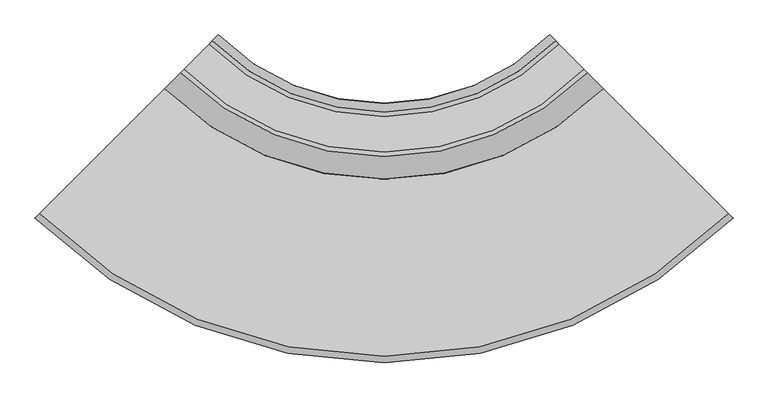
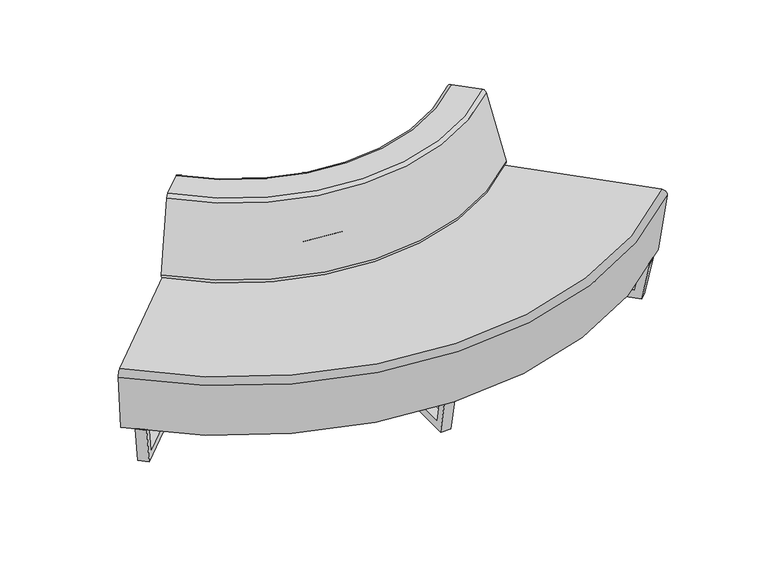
"""IFC4 building model written with IfcOpenShell, lengths in millimetres: furniture geometry, Furniture-Sofa-LyndonDesign-Us_US_12 : Furniture-Sofa-LyndonDesign-Us_US_12."""

from ifc_helpers import new_model, si_unit, point, frame, origin, place, context, project, spatial, polyline, circle_curve, ellipse_curve, trimmed, outline, extrude, source, transform, mapped, element, save
from ifc_brep_helpers import plane_surface, revolved_surface, advanced_brep


def furniture_19859e92(model_context):
    return source(origin(), model_context, "Body", "SolidModel", [
        extrude(outline(polyline([(-76.0017475, 0.0), (-676.0052017, 0.0), (-704.8608218, 150.0008635), (-47.1461273, 150.0008635), (-76.0017475, 0.0)]), holes=[polyline([(-649.5600625, 31.992539), (-102.4330699, 31.992539), (-84.7615271, 124.0047668), (-667.245422, 124.0047668), (-649.5600625, 31.992539)])]), frame((-20.0, 0.0, 0.0), z_axis=(1.0, 0.0, 0.0), x_axis=(0.0, 1.0, 0.0)), (0.0, 0.0, 1.0), 40.0),
        extrude(outline(polyline([(789.9948218, 0.0), (818.850442, -150.0008635), (161.1357474, -150.0008635), (189.9913676, 0.0), (789.9948218, 0.0)]), holes=[polyline([(216.4365067, -31.992539), (198.7511472, -124.0047668), (781.2350421, -124.0047668), (763.5634993, -31.992539), (216.4365067, -31.992539)])]), frame((-1094.035217, -471.0704004, 0.0), z_axis=(-0.7071067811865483, 0.7071067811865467, 0.0), x_axis=(0.7071067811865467, 0.7071067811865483, 0.0)), (0.0, 0.0, 1.0), 40.0),
        extrude(outline(polyline([(144.0066093, 0.0), (257.350926, -589.2004845), (115.5018078, -645.8726428), (-8.7445146, 0.0), (144.0066093, 0.0)]), holes=[polyline([(220.9387595, -569.275072), (117.5831293, -31.9990166), (23.8893051, -32.0273189), (133.9240701, -604.0236811), (220.9387595, -569.275072)])]), frame((516.1885809, 106.7762357, 141.4137925), z_axis=(0.7071067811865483, 0.7071067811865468, 0.0), x_axis=(0.13357678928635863, -0.1335767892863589, -0.9819951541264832)), (0.0, 0.0, 1.0), 40.0),
        advanced_brep(
        [(518.8068085, 231.4409775, 400.0), (507.3356471, 242.9084352, 416.4948981), (525.7083371, 224.541677, 685.8398745), (535.9954958, 214.2578397, 699.1667853), (612.7629541, 137.5151667, 698.9837746), (622.5237022, 127.75757, 688.2685098), (671.7426141, 78.554549, 418.8659125), (660.423191, 89.8703175, 400.0), (-518.8068085, 231.4409775, 400.0), (-660.423191, 89.8703175, 400.0), (-671.7426141, 78.554549, 418.8659125), (-622.5237022, 127.75757, 688.2685098), (-612.7629541, 137.5151667, 698.9837746), (-535.9954958, 214.2578397, 699.1667853), (-525.7083371, 224.541677, 685.8398745), (-507.3356471, 242.9084352, 416.4948981)],
        [
            (0, 1, circle_curve(frame((518.8068085, 231.4409775, 416.2223431), z_axis=(0.7069926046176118, 0.7072209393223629, 0.0), x_axis=(-0.7072209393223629, 0.7069926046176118, 0.0)), 16.2223431)),
            (1, 2, circle_curve(frame((1714.2636331, -963.6298797, 387.8182679), z_axis=(0.7069926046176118, 0.7072209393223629, 0.0), x_axis=(-0.7072209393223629, 0.7069926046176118, 0.0)), 1706.8193278)),
            (2, 3, circle_curve(frame((537.0048765, 213.2487848, 683.0073493), z_axis=(0.7069926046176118, 0.7072209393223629, 0.0), x_axis=(-0.7072209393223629, 0.7069926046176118, 0.0)), 16.2223431)),
            (3, 4, circle_curve(frame((573.6603534, 176.6051427, 96.1803965), z_axis=(0.7069926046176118, 0.7072209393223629, 0.0), x_axis=(-0.7072209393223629, 0.7069926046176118, 0.0)), 605.3337527)),
            (4, 5, circle_curve(frame((611.7150432, 138.5627392, 682.829243), z_axis=(0.7069926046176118, 0.7072209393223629, 0.0), x_axis=(-0.7072209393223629, 0.7069926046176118, 0.0)), 16.2223431)),
            (5, 6, circle_curve(frame((-419.0342443, 1168.9792371, 164.1228604), z_axis=(0.7069926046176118, 0.7072209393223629, 0.0), x_axis=(-0.7072209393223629, 0.7069926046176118, 0.0)), 1563.2383624)),
            (6, 7, circle_curve(frame((660.423191, 89.8703175, 416.2223431), z_axis=(0.7069926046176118, 0.7072209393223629, 0.0), x_axis=(-0.7072209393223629, 0.7069926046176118, 0.0)), 16.2223431)),
            (7, 0),
            (8, 9),
            (9, 10, circle_curve(frame((-660.423191, 89.8703175, 416.2223431), z_axis=(-0.7069926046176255, 0.7072209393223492, 0.0), x_axis=(0.7072209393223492, 0.7069926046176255, 0.0)), 16.2223431)),
            (10, 11, circle_curve(frame((419.0342443, 1168.9792371, 164.1228604), z_axis=(-0.7069926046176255, 0.7072209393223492, 0.0), x_axis=(0.7072209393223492, 0.7069926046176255, 0.0)), 1563.2383624)),
            (11, 12, circle_curve(frame((-611.7150432, 138.5627392, 682.829243), z_axis=(-0.7069926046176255, 0.7072209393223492, 0.0), x_axis=(0.7072209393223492, 0.7069926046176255, 0.0)), 16.2223431)),
            (12, 13, circle_curve(frame((-573.6603534, 176.6051427, 96.1803965), z_axis=(-0.7069926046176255, 0.7072209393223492, 0.0), x_axis=(0.7072209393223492, 0.7069926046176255, 0.0)), 605.3337527)),
            (13, 14, circle_curve(frame((-537.0048765, 213.2487848, 683.0073493), z_axis=(-0.7069926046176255, 0.7072209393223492, 0.0), x_axis=(0.7072209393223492, 0.7069926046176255, 0.0)), 16.2223431)),
            (14, 15, circle_curve(frame((-1714.2636331, -963.6298797, 387.8182679), z_axis=(-0.7069926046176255, 0.7072209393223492, 0.0), x_axis=(0.7072209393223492, 0.7069926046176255, 0.0)), 1706.8193278)),
            (15, 8, circle_curve(frame((-518.8068085, 231.4409775, 416.2223431), z_axis=(-0.7069926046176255, 0.7072209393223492, 0.0), x_axis=(0.7072209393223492, 0.7069926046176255, 0.0)), 16.2223431)),
            (15, 1, circle_curve(frame((0.0, 750.080283, 416.4948981), z_axis=(0.0, 0.0, 1.0), x_axis=(0.7072209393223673, -0.7069926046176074, 0.0)), 717.3651386)),
            (0, 8, circle_curve(frame((0.0, 750.080283, 400.0), z_axis=(0.0, 0.0, -1.0), x_axis=(0.7072209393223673, -0.7069926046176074, 0.0)), 733.5851919)),
            (14, 2, circle_curve(frame((0.0, 750.080283, 685.8398745), z_axis=(0.0, 0.0, 1.0), x_axis=(0.7072209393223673, -0.7069926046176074, 0.0)), 743.3438519)),
            (13, 3, circle_curve(frame((0.0, 750.080283, 699.1667853), z_axis=(0.0, 0.0, 1.0), x_axis=(0.7072209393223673, -0.7069926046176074, 0.0)), 757.8897428)),
            (12, 4, circle_curve(frame((0.0, 750.080283, 698.9837746), z_axis=(0.0, 0.0, 1.0), x_axis=(0.7072209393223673, -0.7069926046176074, 0.0)), 866.437799)),
            (11, 5, circle_curve(frame((0.0, 750.080283, 688.2685098), z_axis=(0.0, 0.0, 1.0), x_axis=(0.7072209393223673, -0.7069926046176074, 0.0)), 880.2393532)),
            (10, 6, circle_curve(frame((0.0, 750.080283, 418.8659125), z_axis=(0.0, 0.0, 1.0), x_axis=(0.7072209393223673, -0.7069926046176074, 0.0)), 949.8341702)),
            (9, 7, circle_curve(frame((0.0, 750.080283, 400.0), z_axis=(0.0, 0.0, 1.0), x_axis=(0.7072209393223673, -0.7069926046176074, 0.0)), 933.8286726)),
        ],
        [
            plane_surface(frame((507.1960089, 243.0480283, 400.0), z_axis=(0.7069926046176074, 0.7072209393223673, 0.0), x_axis=(0.0, 0.0, 1.0))),
            plane_surface(frame((-507.1960089, 243.0480283, 400.0), z_axis=(-0.70699260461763, 0.7072209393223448, 0.0), x_axis=(0.0, 0.0, 1.0))),
            revolved_surface(trimmed(ellipse_curve(frame((518.8068085, 231.4409775, 416.2223431), z_axis=(0.7069926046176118, 0.7072209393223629, 0.0), x_axis=(-0.7072209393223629, 0.7069926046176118, 0.0)), 16.2223431, 16.2223431), [point((518.8068085, 231.4409775, 400.0))], [point((507.3356471, 242.9084352, 416.4948981))], True, "CARTESIAN"), (0.0, 750.080283, 400.0), (0.0, 0.0, -1.0)),
            revolved_surface(trimmed(ellipse_curve(frame((1714.2636331, -963.6298797, 387.8182679), z_axis=(0.7069926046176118, 0.7072209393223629, 0.0), x_axis=(-0.7072209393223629, 0.7069926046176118, 0.0)), 1706.8193278, 1706.8193278), [point((507.3356471, 242.9084352, 416.4948981))], [point((525.7083371, 224.541677, 685.8398745))], True, "CARTESIAN"), (0.0, 750.080283, 400.0), (0.0, 0.0, -1.0)),
            revolved_surface(trimmed(ellipse_curve(frame((537.0048765, 213.2487848, 683.0073493), z_axis=(0.7069926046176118, 0.7072209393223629, 0.0), x_axis=(-0.7072209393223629, 0.7069926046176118, 0.0)), 16.2223431, 16.2223431), [point((525.7083371, 224.541677, 685.8398745))], [point((535.9954958, 214.2578397, 699.1667853))], True, "CARTESIAN"), (0.0, 750.080283, 400.0), (0.0, 0.0, -1.0)),
            revolved_surface(trimmed(ellipse_curve(frame((573.6603534, 176.6051427, 96.1803965), z_axis=(0.7069926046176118, 0.7072209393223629, 0.0), x_axis=(-0.7072209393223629, 0.7069926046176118, 0.0)), 605.3337527, 605.3337527), [point((535.9954958, 214.2578397, 699.1667853))], [point((612.7629541, 137.5151667, 698.9837746))], True, "CARTESIAN"), (0.0, 750.080283, 400.0), (0.0, 0.0, -1.0)),
            revolved_surface(trimmed(ellipse_curve(frame((611.7150432, 138.5627392, 682.829243), z_axis=(0.7069926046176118, 0.7072209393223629, 0.0), x_axis=(-0.7072209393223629, 0.7069926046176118, 0.0)), 16.2223431, 16.2223431), [point((612.7629541, 137.5151667, 698.9837746))], [point((622.5237022, 127.75757, 688.2685098))], True, "CARTESIAN"), (0.0, 750.080283, 400.0), (0.0, 0.0, -1.0)),
            revolved_surface(trimmed(ellipse_curve(frame((-419.0342443, 1168.9792371, 164.1228604), z_axis=(0.7069926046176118, 0.7072209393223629, 0.0), x_axis=(-0.7072209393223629, 0.7069926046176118, 0.0)), 1563.2383624, 1563.2383624), [point((622.5237022, 127.75757, 688.2685098))], [point((671.7426141, 78.554549, 418.8659125))], True, "CARTESIAN"), (0.0, 750.080283, 400.0), (0.0, 0.0, -1.0)),
            revolved_surface(trimmed(ellipse_curve(frame((660.423191, 89.8703175, 416.2223431), z_axis=(0.7069926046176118, 0.7072209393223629, 0.0), x_axis=(-0.7072209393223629, 0.7069926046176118, 0.0)), 16.2223431, 16.2223431), [point((671.7426141, 78.554549, 418.8659125))], [point((660.423191, 89.8703175, 400.0))], True, "CARTESIAN"), (0.0, 750.080283, 400.0), (0.0, 0.0, -1.0)),
            plane_surface(frame((0.0, 750.080283, 400.0), z_axis=(0.0, 0.0, -1.0), x_axis=(0.7072209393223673, -0.7069926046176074, 0.0))),
        ],
        [
            (0, [[1, 2, 3, 4, 5, 6, 7, 8]]),
            (1, [[9, 10, 11, 12, 13, 14, 15, 16]]),
            (2, [[17, -1, 18, -16]]),
            (3, [[19, -2, -17, -15]]),
            (4, [[20, -3, -19, -14]]),
            (5, [[21, -4, -20, -13]]),
            (6, [[22, -5, -21, -12]]),
            (7, [[23, -6, -22, -11]]),
            (8, [[24, -7, -23, -10]]),
            (9, [[-18, -8, -24, -9]]),
        ],
    ),
        advanced_brep(
        [(-1055.6943889, -305.4503517, 400.0), (-521.3381445, 228.9058927, 400.0), (-507.2746732, 242.969364, 377.8934504), (-530.5026463, 219.741391, 150.0008635), (-1046.5180362, -296.2739989, 150.0008635), (-1069.758874, -319.5148367, 377.9070309), (1055.6943889, -305.4503517, 400.0), (1069.758874, -319.5148367, 377.9070309), (1046.5180362, -296.2739989, 150.0008635), (530.5026463, 219.741391, 150.0008635), (507.2746732, 242.969364, 377.8934504), (521.3381445, 228.9058927, 400.0)],
        [
            (0, 1),
            (1, 2, circle_curve(frame((-521.3381445, 228.9058927, 380.0), z_axis=(-0.7071067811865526, 0.707106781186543, 0.0), x_axis=(0.7071067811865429, 0.7071067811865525, 0.0)), 20.0)),
            (2, 3, circle_curve(frame((-2658.7856996, -1908.5416624, 700.1655651), z_axis=(-0.7071067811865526, 0.707106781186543, 0.0), x_axis=(0.7071067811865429, 0.7071067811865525, 0.0)), 3059.7154621)),
            (3, 4),
            (4, 5, circle_curve(frame((1039.8904621, 1790.1344993, 691.8489037), z_axis=(-0.7071067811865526, 0.707106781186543, 0.0), x_axis=(0.7071067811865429, 0.7071067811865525, 0.0)), 2999.9666901)),
            (5, 0, circle_curve(frame((-1055.6943889, -305.4503517, 380.0), z_axis=(-0.7071067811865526, 0.707106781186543, 0.0), x_axis=(0.7071067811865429, 0.7071067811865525, 0.0)), 20.0)),
            (6, 7, circle_curve(frame((1055.6943889, -305.4503517, 380.0), z_axis=(0.7071067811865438, 0.7071067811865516, 0.0), x_axis=(-0.7071067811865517, 0.7071067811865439, 0.0)), 20.0)),
            (7, 8, circle_curve(frame((-1039.8904621, 1790.1344993, 691.8489037), z_axis=(0.7071067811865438, 0.7071067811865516, 0.0), x_axis=(-0.7071067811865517, 0.7071067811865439, 0.0)), 2999.9666901)),
            (8, 9),
            (9, 10, circle_curve(frame((2658.7856996, -1908.5416624, 700.1655651), z_axis=(0.7071067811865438, 0.7071067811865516, 0.0), x_axis=(-0.7071067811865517, 0.7071067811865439, 0.0)), 3059.7154621)),
            (10, 11, circle_curve(frame((521.3381445, 228.9058927, 380.0), z_axis=(0.7071067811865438, 0.7071067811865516, 0.0), x_axis=(-0.7071067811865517, 0.7071067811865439, 0.0)), 20.0)),
            (11, 6),
            (11, 1, circle_curve(frame((0.0, 750.2440372, 400.0), z_axis=(0.0, 0.0, -1.0), x_axis=(-0.707106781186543, -0.7071067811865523, 0.0)), 737.2834746)),
            (0, 6, circle_curve(frame((0.0, 750.2440372, 400.0), z_axis=(0.0, 0.0, 1.0), x_axis=(-0.707106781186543, -0.7071067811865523, 0.0)), 1492.9773225)),
            (10, 2, circle_curve(frame((0.0, 750.2440372, 377.8934504), z_axis=(0.0, 0.0, -1.0), x_axis=(-0.707106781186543, -0.7071067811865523, 0.0)), 717.3947227)),
            (9, 3, circle_curve(frame((0.0, 750.2440372, 150.0008635), z_axis=(0.0, 0.0, -1.0), x_axis=(-0.707106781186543, -0.7071067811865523, 0.0)), 750.2440372)),
            (8, 4, circle_curve(frame((0.0, 750.2440372, 150.0008635), z_axis=(0.0, 0.0, -1.0), x_axis=(-0.707106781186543, -0.7071067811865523, 0.0)), 1480.0)),
            (7, 5, circle_curve(frame((0.0, 750.2440372, 377.9070309), z_axis=(0.0, 0.0, -1.0), x_axis=(-0.707106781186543, -0.7071067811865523, 0.0)), 1512.867508)),
        ],
        [
            plane_surface(frame((-1046.5180362, -296.2739989, 150.0008635), z_axis=(-0.7071067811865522, 0.7071067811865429, 0.0), x_axis=(0.0, 0.0, 1.0))),
            plane_surface(frame((1046.5180362, -296.2739989, 150.0008635), z_axis=(0.7071067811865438, 0.7071067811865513, 0.0), x_axis=(0.0, 0.0, 1.0))),
            plane_surface(frame((0.0, 750.2440372, 400.0), z_axis=(0.0, 0.0, 1.0), x_axis=(-0.7071067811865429, -0.7071067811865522, 0.0))),
            revolved_surface(trimmed(ellipse_curve(frame((-521.3381445, 228.9058927, 380.0), z_axis=(-0.7071067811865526, 0.707106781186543, 0.0), x_axis=(0.7071067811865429, 0.7071067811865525, 0.0)), 20.0, 20.0), [point((-521.3381445, 228.9058927, 400.0))], [point((-507.2746732, 242.969364, 377.8934504))], True, "CARTESIAN"), (0.0, 750.2440372, 150.0008635), (0.0, 0.0, 1.0000000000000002)),
            revolved_surface(trimmed(ellipse_curve(frame((-2658.7856996, -1908.5416624, 700.1655651), z_axis=(-0.7071067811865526, 0.707106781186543, 0.0), x_axis=(0.7071067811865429, 0.7071067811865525, 0.0)), 3059.7154621, 3059.7154621), [point((-507.2746732, 242.969364, 377.8934504))], [point((-530.5026463, 219.741391, 150.0008635))], True, "CARTESIAN"), (0.0, 750.2440372, 150.0008635), (0.0, 0.0, 1.0000000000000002)),
            plane_surface(frame((0.0, 750.2440372, 150.0008635), z_axis=(0.0, 0.0, -1.0), x_axis=(-0.7071067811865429, -0.7071067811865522, 0.0))),
            revolved_surface(trimmed(ellipse_curve(frame((1039.8904621, 1790.1344993, 691.8489037), z_axis=(-0.7071067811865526, 0.707106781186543, 0.0), x_axis=(0.7071067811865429, 0.7071067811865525, 0.0)), 2999.9666901, 2999.9666901), [point((-1046.5180362, -296.2739989, 150.0008635))], [point((-1069.758874, -319.5148367, 377.9070309))], True, "CARTESIAN"), (0.0, 750.2440372, 150.0008635), (0.0, 0.0, 1.0000000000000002)),
            revolved_surface(trimmed(ellipse_curve(frame((-1055.6943889, -305.4503517, 380.0), z_axis=(-0.7071067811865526, 0.707106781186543, 0.0), x_axis=(0.7071067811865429, 0.7071067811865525, 0.0)), 20.0, 20.0), [point((-1069.758874, -319.5148367, 377.9070309))], [point((-1055.6943889, -305.4503517, 400.0))], True, "CARTESIAN"), (0.0, 750.2440372, 150.0008635), (0.0, 0.0, 1.0000000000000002)),
        ],
        [
            (0, [[1, 2, 3, 4, 5, 6]]),
            (1, [[7, 8, 9, 10, 11, 12]]),
            (2, [[13, -1, 14, -12]]),
            (3, [[15, -2, -13, -11]]),
            (4, [[16, -3, -15, -10]]),
            (5, [[17, -4, -16, -9]]),
            (6, [[18, -5, -17, -8]]),
            (7, [[-14, -6, -18, -7]]),
        ],
    ),
    ])


if __name__ == "__main__":
    model = new_model("IFC4")
    model_context = context("Model", 3, world=origin())
    ifc_project = project(units=[si_unit("LENGTHUNIT", "METRE", prefix="MILLI")], contexts=[model_context])
    site = spatial("IfcSite", under=ifc_project)
    building = spatial("IfcBuilding", under=site)
    placement = place(None, origin())
    furniture_shape = furniture_19859e92(model_context)
    element("IfcFurniture", 1, ObjectType="Furniture-Sofa-LyndonDesign-Us_US_12 : Furniture-Sofa-LyndonDesign-Us_US_12", at=placement, inside=building, context=model_context, shape_type="MappedRepresentation", body=[
        mapped(furniture_shape, transform((0.0, 0.0, 0.0), x_axis=(1.0, 0.0, 0.0), y_axis=(0.0, 1.0, 0.0), z_axis=(0.0, 0.0, 1.0))),
    ])
    save(model, "model.ifc")
